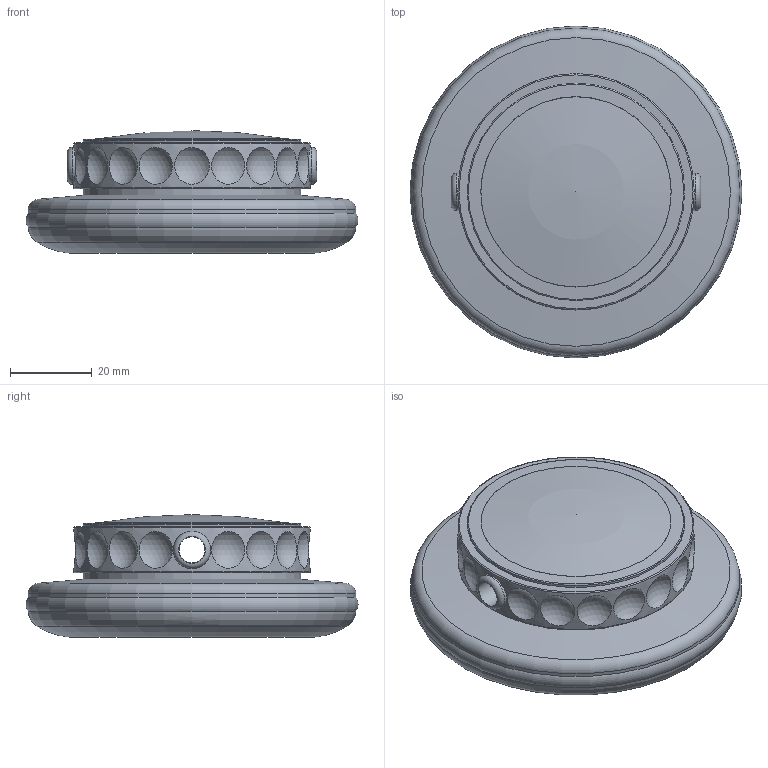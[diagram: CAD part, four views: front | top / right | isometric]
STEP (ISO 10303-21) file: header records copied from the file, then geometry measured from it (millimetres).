
FILE_DESCRIPTION( ( '' ), ' ' );
FILE_NAME( '/vol/tmp/translate-5973466136822877127/5ae2de3d51f7540fd2167312.step', '2018-04-27T08:24:29', ( '' ), ( '' ), ' ', ' ', ' ' );
FILE_SCHEMA( ( 'AUTOMOTIVE_DESIGN { 1 0 10303 214 1 1 1 1 }' ) );
Length unit declared in the file: metre
Products named in the file (1): Headphone speaker
Bounding box: 81.18 x 81.18 x 29.98 mm (x, y, z)
Volume: 87839.8 mm3; surface area: 18207.2 mm2
Topology: 1 solids, 1 shells, 44 faces, 76 edges, 54 vertices
Faces by surface type: sphere 19, torus 11, cylinder 7, plane 5, cone 2
Full cylindrical faces by diameter (mm): 6.35 x1, 9.144 x2, 53.162 x2, 57.734 x1, 80.137 x1
Entity records: 2540 total; most frequent: CARTESIAN_POINT 1471, DIRECTION 138, EDGE_LOOP 88, ORIENTED_EDGE 88, AXIS2_PLACEMENT_3D 69, FACE_OUTER_BOUND 62, VERTEX_POINT 46, STYLED_ITEM 44
